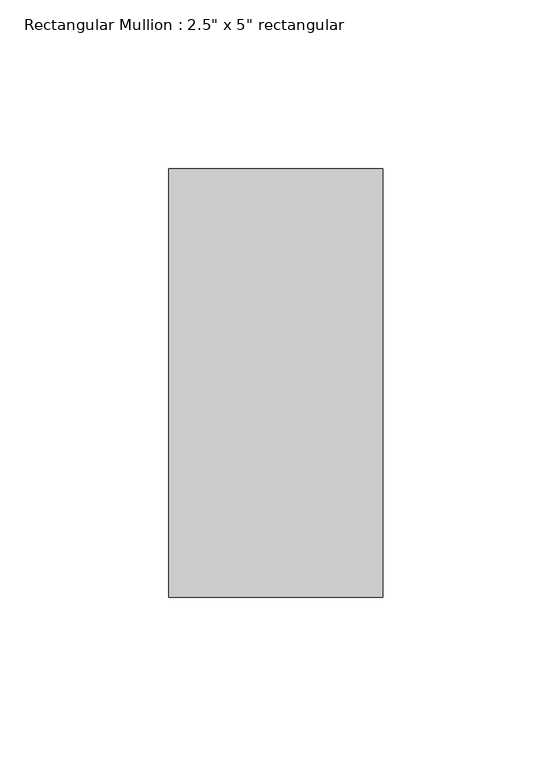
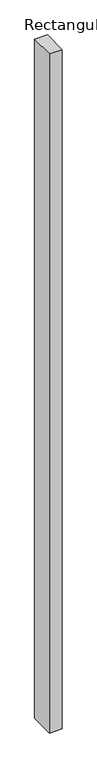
"""IFC4 building model written with IfcOpenShell, lengths in millimetres: member geometry."""

from ifc_helpers import new_model, si_unit, frame, origin, place, context, project, spatial, polyline, outline, extrude, source, transform, mapped, element, save


def member_f4caef1d(model_context):
    return source(origin(), model_context, "Body", "SweptSolid", [
        extrude(outline(polyline([(31.75, 63.5), (31.75, -63.5), (-31.75, -63.5), (-31.75, 63.5), (31.75, 63.5)])), frame((0.0, 0.0, -3566.31875), z_axis=(0.0, 0.0, 1.0), x_axis=(1.0, 0.0, 0.0)), (0.0, 0.0, 1.0), 3566.31875),
    ])


if __name__ == "__main__":
    model = new_model("IFC4")
    model_context = context("Model", 3, world=origin())
    ifc_project = project(units=[si_unit("LENGTHUNIT", "METRE", prefix="MILLI")], contexts=[model_context])
    site = spatial("IfcSite", under=ifc_project)
    building = spatial("IfcBuilding", under=site)
    placement = place(None, origin())
    member_shape = member_f4caef1d(model_context)
    element("IfcMember", 1, ObjectType="Rectangular Mullion : 2.5\" x 5\" rectangular", at=placement, inside=building, context=model_context, shape_type="MappedRepresentation", body=[
        mapped(member_shape, transform((0.0, 0.0, 0.0), x_axis=(1.0, 0.0, 0.0), y_axis=(0.0, 1.0, 0.0), z_axis=(0.0, 0.0, 1.0))),
    ])
    save(model, "model.ifc")
